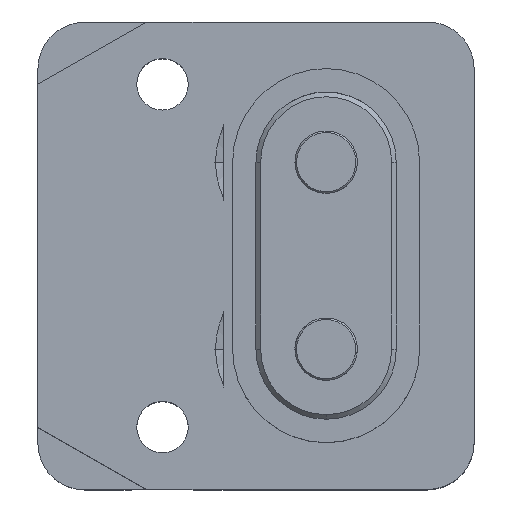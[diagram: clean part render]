
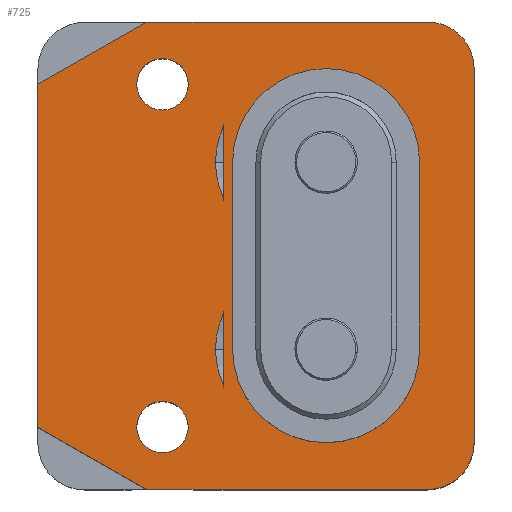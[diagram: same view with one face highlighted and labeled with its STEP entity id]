
A CAD part, top view. The second image highlights one B-rep face of the part: STEP entity #725.
In plain terms, the highlighted planar face has unit normal (0, 0, 1).
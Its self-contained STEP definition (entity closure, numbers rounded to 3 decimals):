
#230=PLANE('',#2616);
#288=FACE_BOUND('',#1005,.T.);
#289=FACE_BOUND('',#1006,.T.);
#290=FACE_BOUND('',#1007,.T.);
#291=FACE_BOUND('',#1008,.T.);
#292=FACE_BOUND('',#1009,.T.);
#293=FACE_BOUND('',#1010,.T.);
#319=B_SPLINE_CURVE_WITH_KNOTS('',3,(#3969,#3970,#3971,#3972),
 .UNSPECIFIED.,.F.,.F.,(4,4),(0.,1.),.UNSPECIFIED.);
#322=B_SPLINE_CURVE_WITH_KNOTS('',3,(#3997,#3998,#3999,#4000),
 .UNSPECIFIED.,.F.,.F.,(4,4),(0.,1.),.UNSPECIFIED.);
#323=B_SPLINE_CURVE_WITH_KNOTS('',3,(#4032,#4033,#4034,#4035),
 .UNSPECIFIED.,.F.,.F.,(4,4),(0.,1.),.UNSPECIFIED.);
#325=B_SPLINE_CURVE_WITH_KNOTS('',3,(#4045,#4046,#4047,#4048),
 .UNSPECIFIED.,.F.,.F.,(4,4),(0.,1.),.UNSPECIFIED.);
#436=LINE('',#4084,#570);
#442=LINE('',#4115,#576);
#454=LINE('',#4140,#588);
#461=LINE('',#4174,#595);
#462=LINE('',#4175,#596);
#463=LINE('',#4178,#597);
#464=LINE('',#4179,#598);
#465=LINE('',#4182,#599);
#466=LINE('',#4190,#600);
#467=LINE('',#4196,#601);
#570=VECTOR('',#3089,1.);
#576=VECTOR('',#3105,1.);
#588=VECTOR('',#3119,1.);
#595=VECTOR('',#3136,1.);
#596=VECTOR('',#3137,1.);
#597=VECTOR('',#3140,1.);
#598=VECTOR('',#3141,1.);
#599=VECTOR('',#3144,1.);
#600=VECTOR('',#3153,1.);
#601=VECTOR('',#3158,1.);
#725=ADVANCED_FACE('',(#288,#289,#290,#291,#292,#293),#230,.F.);
#1005=EDGE_LOOP('',(#1371,#1372,#1373));
#1006=EDGE_LOOP('',(#1374,#1375,#1376));
#1007=EDGE_LOOP('',(#1377,#1378,#1379,#1380,#1381,#1382,#1383,#1384));
#1008=EDGE_LOOP('',(#1385,#1386));
#1009=EDGE_LOOP('',(#1387,#1388));
#1010=EDGE_LOOP('',(#1389,#1390,#1391,#1392,#1393,#1394));
#1371=ORIENTED_EDGE('',*,*,#2135,.T.);
#1372=ORIENTED_EDGE('',*,*,#2054,.T.);
#1373=ORIENTED_EDGE('',*,*,#2082,.T.);
#1374=ORIENTED_EDGE('',*,*,#2136,.T.);
#1375=ORIENTED_EDGE('',*,*,#2063,.T.);
#1376=ORIENTED_EDGE('',*,*,#2078,.T.);
#1377=ORIENTED_EDGE('',*,*,#2137,.F.);
#1378=ORIENTED_EDGE('',*,*,#2123,.T.);
#1379=ORIENTED_EDGE('',*,*,#2138,.T.);
#1380=ORIENTED_EDGE('',*,*,#2111,.T.);
#1381=ORIENTED_EDGE('',*,*,#2139,.T.);
#1382=ORIENTED_EDGE('',*,*,#2099,.T.);
#1383=ORIENTED_EDGE('',*,*,#2140,.F.);
#1384=ORIENTED_EDGE('',*,*,#2141,.F.);
#1385=ORIENTED_EDGE('',*,*,#2142,.F.);
#1386=ORIENTED_EDGE('',*,*,#2096,.F.);
#1387=ORIENTED_EDGE('',*,*,#2143,.F.);
#1388=ORIENTED_EDGE('',*,*,#2093,.F.);
#1389=ORIENTED_EDGE('',*,*,#2144,.T.);
#1390=ORIENTED_EDGE('',*,*,#2145,.T.);
#1391=ORIENTED_EDGE('',*,*,#2146,.F.);
#1392=ORIENTED_EDGE('',*,*,#2147,.T.);
#1393=ORIENTED_EDGE('',*,*,#2148,.T.);
#1394=ORIENTED_EDGE('',*,*,#2149,.F.);
#1812=VERTEX_POINT('',#3962);
#1815=VERTEX_POINT('',#3968);
#1817=VERTEX_POINT('',#3976);
#1824=VERTEX_POINT('',#3996);
#1837=VERTEX_POINT('',#4031);
#1839=VERTEX_POINT('',#4044);
#1845=VERTEX_POINT('',#4070);
#1846=VERTEX_POINT('',#4072);
#1847=VERTEX_POINT('',#4076);
#1848=VERTEX_POINT('',#4078);
#1850=VERTEX_POINT('',#4083);
#1851=VERTEX_POINT('',#4085);
#1860=VERTEX_POINT('',#4116);
#1861=VERTEX_POINT('',#4117);
#1872=VERTEX_POINT('',#4141);
#1873=VERTEX_POINT('',#4142);
#1883=VERTEX_POINT('',#4177);
#1884=VERTEX_POINT('',#4181);
#1885=VERTEX_POINT('',#4186);
#1886=VERTEX_POINT('',#4187);
#1887=VERTEX_POINT('',#4189);
#1888=VERTEX_POINT('',#4191);
#1889=VERTEX_POINT('',#4193);
#1890=VERTEX_POINT('',#4195);
#2054=EDGE_CURVE('',#1812,#1815,#319,.T.);
#2063=EDGE_CURVE('',#1817,#1824,#322,.T.);
#2078=EDGE_CURVE('',#1824,#1837,#323,.T.);
#2082=EDGE_CURVE('',#1815,#1839,#325,.T.);
#2093=EDGE_CURVE('',#1845,#1846,#2369,.T.);
#2096=EDGE_CURVE('',#1847,#1848,#2370,.T.);
#2099=EDGE_CURVE('',#1851,#1850,#436,.T.);
#2111=EDGE_CURVE('',#1860,#1861,#442,.T.);
#2123=EDGE_CURVE('',#1872,#1873,#454,.T.);
#2135=EDGE_CURVE('',#1839,#1812,#461,.T.);
#2136=EDGE_CURVE('',#1837,#1817,#462,.T.);
#2137=EDGE_CURVE('',#1872,#1883,#2378,.T.);
#2138=EDGE_CURVE('',#1873,#1860,#463,.T.);
#2139=EDGE_CURVE('',#1861,#1851,#464,.T.);
#2140=EDGE_CURVE('',#1884,#1850,#2379,.T.);
#2141=EDGE_CURVE('',#1883,#1884,#465,.T.);
#2142=EDGE_CURVE('',#1848,#1847,#2380,.T.);
#2143=EDGE_CURVE('',#1846,#1845,#2381,.T.);
#2144=EDGE_CURVE('',#1885,#1886,#2382,.T.);
#2145=EDGE_CURVE('',#1886,#1887,#2383,.T.);
#2146=EDGE_CURVE('',#1888,#1887,#466,.T.);
#2147=EDGE_CURVE('',#1888,#1889,#2384,.T.);
#2148=EDGE_CURVE('',#1889,#1890,#2385,.T.);
#2149=EDGE_CURVE('',#1885,#1890,#467,.T.);
#2369=CIRCLE('',#2593,1.65);
#2370=CIRCLE('',#2595,1.65);
#2378=CIRCLE('',#2608,3.);
#2379=CIRCLE('',#2609,3.);
#2380=CIRCLE('',#2610,1.65);
#2381=CIRCLE('',#2611,1.65);
#2382=CIRCLE('',#2612,6.);
#2383=CIRCLE('',#2613,6.);
#2384=CIRCLE('',#2614,6.);
#2385=CIRCLE('',#2615,6.);
#2593=AXIS2_PLACEMENT_3D('',#4071,#3077,#3078);
#2595=AXIS2_PLACEMENT_3D('',#4077,#3083,#3084);
#2608=AXIS2_PLACEMENT_3D('',#4176,#3138,#3139);
#2609=AXIS2_PLACEMENT_3D('',#4180,#3142,#3143);
#2610=AXIS2_PLACEMENT_3D('',#4183,#3145,#3146);
#2611=AXIS2_PLACEMENT_3D('',#4184,#3147,#3148);
#2612=AXIS2_PLACEMENT_3D('',#4185,#3149,#3150);
#2613=AXIS2_PLACEMENT_3D('',#4188,#3151,#3152);
#2614=AXIS2_PLACEMENT_3D('',#4192,#3154,#3155);
#2615=AXIS2_PLACEMENT_3D('',#4194,#3156,#3157);
#2616=AXIS2_PLACEMENT_3D('',#4197,#3159,#3160);
#3077=DIRECTION('',(0.,0.,1.));
#3078=DIRECTION('',(0.,1.,0.));
#3083=DIRECTION('',(0.,0.,1.));
#3084=DIRECTION('',(0.,1.,0.));
#3089=DIRECTION('',(1.,0.,0.));
#3105=DIRECTION('',(0.,-1.,0.));
#3119=DIRECTION('',(-1.,0.,0.));
#3136=DIRECTION('',(0.,-1.,0.));
#3137=DIRECTION('',(0.,-1.,0.));
#3138=DIRECTION('',(0.,0.,-1.));
#3139=DIRECTION('',(0.,-1.,0.));
#3140=DIRECTION('',(-0.868,-0.496,0.));
#3141=DIRECTION('',(0.868,-0.496,0.));
#3142=DIRECTION('',(0.,0.,-1.));
#3143=DIRECTION('',(0.,-1.,0.));
#3144=DIRECTION('',(0.,-1.,0.));
#3145=DIRECTION('',(0.,0.,1.));
#3146=DIRECTION('',(0.,1.,0.));
#3147=DIRECTION('',(0.,0.,1.));
#3148=DIRECTION('',(0.,1.,0.));
#3149=DIRECTION('',(0.,0.,-1.));
#3150=DIRECTION('',(0.,-1.,0.));
#3151=DIRECTION('',(0.,0.,-1.));
#3152=DIRECTION('',(0.,-1.,0.));
#3153=DIRECTION('',(0.,-1.,0.));
#3154=DIRECTION('',(0.,0.,-1.));
#3155=DIRECTION('',(0.,-1.,0.));
#3156=DIRECTION('',(0.,0.,-1.));
#3157=DIRECTION('',(0.,-1.,0.));
#3158=DIRECTION('',(0.,1.,0.));
#3159=DIRECTION('',(0.,0.,-1.));
#3160=DIRECTION('',(0.,1.,0.));
#3962=CARTESIAN_POINT('',(6.251,-7.397,35.5));
#3968=CARTESIAN_POINT('',(5.751,-5.106,35.5));
#3969=CARTESIAN_POINT('',(6.251,-7.397,35.5));
#3970=CARTESIAN_POINT('',(5.948,-6.671,35.5));
#3971=CARTESIAN_POINT('',(5.751,-5.9,35.5));
#3972=CARTESIAN_POINT('',(5.751,-5.106,35.5));
#3976=CARTESIAN_POINT('',(6.251,4.603,35.5));
#3996=CARTESIAN_POINT('',(5.751,6.894,35.5));
#3997=CARTESIAN_POINT('',(6.251,4.603,35.5));
#3998=CARTESIAN_POINT('',(5.948,5.329,35.5));
#3999=CARTESIAN_POINT('',(5.751,6.1,35.5));
#4000=CARTESIAN_POINT('',(5.751,6.894,35.5));
#4031=CARTESIAN_POINT('',(6.251,9.185,35.5));
#4032=CARTESIAN_POINT('',(5.751,6.894,35.5));
#4033=CARTESIAN_POINT('',(5.751,7.688,35.5));
#4034=CARTESIAN_POINT('',(5.947,8.455,35.5));
#4035=CARTESIAN_POINT('',(6.251,9.185,35.5));
#4044=CARTESIAN_POINT('',(6.251,-2.815,35.5));
#4045=CARTESIAN_POINT('',(5.751,-5.106,35.5));
#4046=CARTESIAN_POINT('',(5.751,-4.312,35.5));
#4047=CARTESIAN_POINT('',(5.947,-3.545,35.5));
#4048=CARTESIAN_POINT('',(6.251,-2.815,35.5));
#4070=CARTESIAN_POINT('',(2.351,-11.756,35.5));
#4071=CARTESIAN_POINT('',(2.351,-10.106,35.5));
#4072=CARTESIAN_POINT('',(2.351,-8.456,35.5));
#4076=CARTESIAN_POINT('',(2.351,10.244,35.5));
#4077=CARTESIAN_POINT('',(2.351,11.894,35.5));
#4078=CARTESIAN_POINT('',(2.351,13.544,35.5));
#4083=CARTESIAN_POINT('',(19.351,-14.106,35.5));
#4084=CARTESIAN_POINT('',(6.351,-14.106,35.5));
#4085=CARTESIAN_POINT('',(1.351,-14.106,35.5));
#4115=CARTESIAN_POINT('',(-5.649,-14.106,35.5));
#4116=CARTESIAN_POINT('',(-5.649,11.894,35.5));
#4117=CARTESIAN_POINT('',(-5.649,-10.106,35.5));
#4140=CARTESIAN_POINT('',(6.351,15.894,35.5));
#4141=CARTESIAN_POINT('',(19.351,15.894,35.5));
#4142=CARTESIAN_POINT('',(1.351,15.894,35.5));
#4174=CARTESIAN_POINT('',(6.251,18.927,35.5));
#4175=CARTESIAN_POINT('',(6.251,18.927,35.5));
#4176=CARTESIAN_POINT('',(19.351,12.894,35.5));
#4177=CARTESIAN_POINT('',(22.351,12.894,35.5));
#4178=CARTESIAN_POINT('',(1.351,15.894,35.5));
#4179=CARTESIAN_POINT('',(-5.649,-10.106,35.5));
#4180=CARTESIAN_POINT('',(19.351,-11.106,35.5));
#4181=CARTESIAN_POINT('',(22.351,-11.106,35.5));
#4182=CARTESIAN_POINT('',(22.351,-14.106,35.5));
#4183=CARTESIAN_POINT('',(2.351,11.894,35.5));
#4184=CARTESIAN_POINT('',(2.351,-10.106,35.5));
#4185=CARTESIAN_POINT('',(12.851,-5.106,35.5));
#4186=CARTESIAN_POINT('',(18.851,-5.106,35.5));
#4187=CARTESIAN_POINT('',(12.851,-11.106,35.5));
#4188=CARTESIAN_POINT('',(12.851,-5.106,35.5));
#4189=CARTESIAN_POINT('',(6.851,-5.106,35.5));
#4190=CARTESIAN_POINT('',(6.851,12.894,35.5));
#4191=CARTESIAN_POINT('',(6.851,6.894,35.5));
#4192=CARTESIAN_POINT('',(12.851,6.894,35.5));
#4193=CARTESIAN_POINT('',(12.851,12.894,35.5));
#4194=CARTESIAN_POINT('',(12.851,6.894,35.5));
#4195=CARTESIAN_POINT('',(18.851,6.894,35.5));
#4196=CARTESIAN_POINT('',(18.851,12.894,35.5));
#4197=CARTESIAN_POINT('',(0.351,0.894,35.5));
